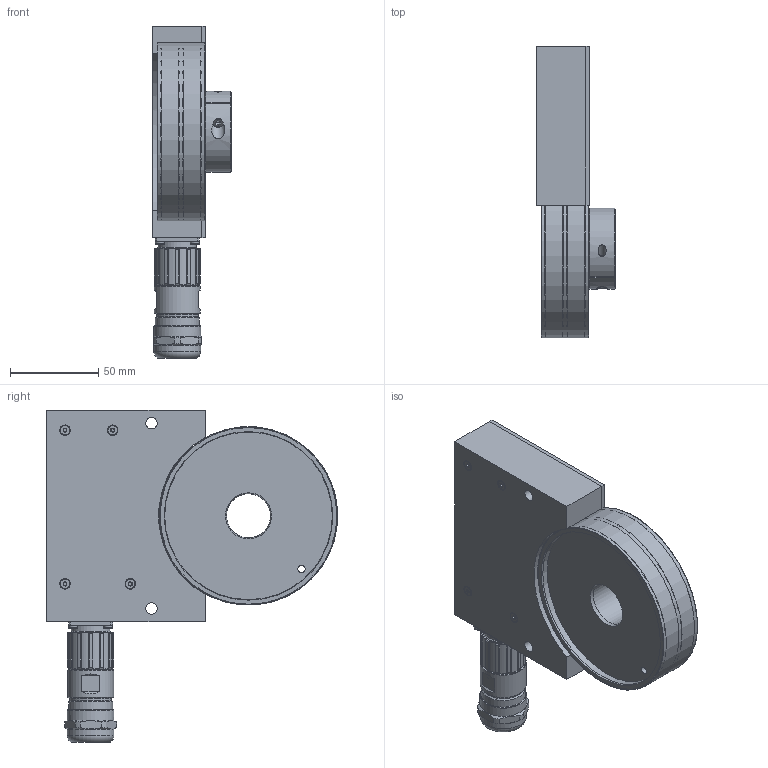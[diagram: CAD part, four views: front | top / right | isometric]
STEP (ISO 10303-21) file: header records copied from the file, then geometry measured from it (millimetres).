
FILE_DESCRIPTION(/* description */ (''),/* implementation_level */ '2;1');
FILE_NAME(/* name */ 'M:\__3D-Daten\Loeschen\Step\Baumer_MHAP100-B5-K25_CAD.stp',/* time_stamp */ '2018-07-30T14:23:24+02:00',/* author */ ('mbir'),/* organization */ (''),/* preprocessor_version */ 'ST-DEVELOPER v16.1',/* originating_system */ 'Autodesk Inventor 2016',/* authorisation */ '');
FILE_SCHEMA (('AUTOMOTIVE_DESIGN { 1 0 10303 214 3 1 1 }'));
Length unit declared in the file: centimetre
Products named in the file (1): Baumer_MHAP100-B5-K25_CAD
Bounding box: 44.7 x 164.94 x 188.15 mm (x, y, z)
Volume: 483375.9 mm3; surface area: 87037.6 mm2
Topology: 3 solids, 10 shells, 625 faces, 1524 edges, 988 vertices
Faces by surface type: cylinder 324, plane 196, torus 58, cone 47
Full cylindrical faces by diameter (mm): 2.5 x4, 2.7 x4, 2.9 x9, 3 x9, 3.2 x9, 4 x6, 4.15 x1, 4.5 x2, 5 x4, 5.5 x9, 6 x9, 6.5 x4, 7 x1, 7.5 x1, 12 x1, 17 x1, 17.3 x2, 19.8 x1, 20 x1, 21 x1, 21.8 x1, 22 x1, 22.8 x1, 23 x3, 23.2 x2, 23.541 x1, 25 x1, 25.001 x1, 26.001 x1, 26.5 x2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
Entity records: 17521 total; most frequent: CARTESIAN_POINT 3381, DIRECTION 3207, ORIENTED_EDGE 2534, AXIS2_PLACEMENT_3D 1392, EDGE_CURVE 1267, VERTEX_POINT 928, EDGE_LOOP 925, CIRCLE 736
